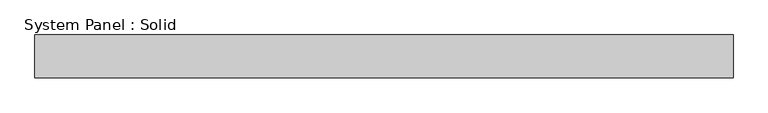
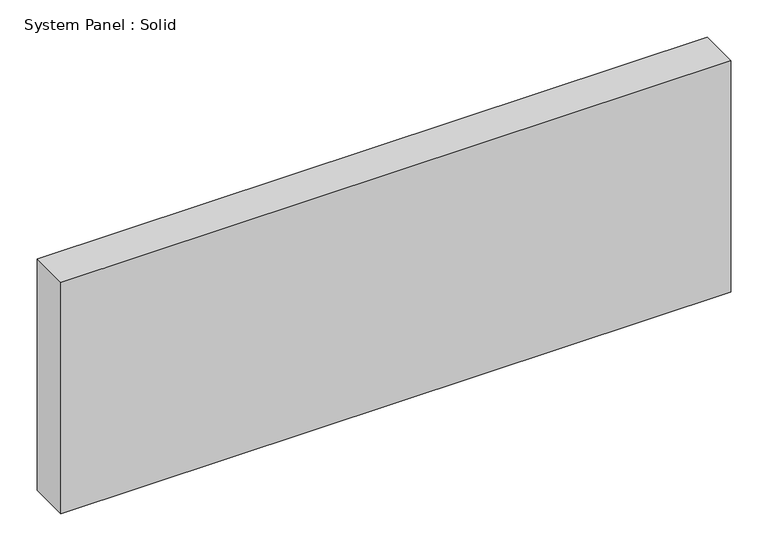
"""IFC4 building model written with IfcOpenShell, lengths in millimetres: plate geometry, System Panel : Solid."""

from ifc_helpers import new_model, si_unit, origin, origin_with_axes, place, context, project, spatial, polyline, outline, extrude, source, transform, mapped, element, save


def system_panel_solid_cdb384bf(model_context):
    return source(origin(), model_context, "Body", "SweptSolid", [
        extrude(outline(polyline([(518.8620624, -19.05), (-518.8620624, -19.05), (-518.8620624, 44.45), (518.8620624, 44.45), (518.8620624, -19.05)])), origin_with_axes(), (0.0, 0.0, 1.0), 379.1388226),
    ])


if __name__ == "__main__":
    model = new_model("IFC4")
    model_context = context("Model", 3, world=origin())
    ifc_project = project(units=[si_unit("LENGTHUNIT", "METRE", prefix="MILLI")], contexts=[model_context])
    site = spatial("IfcSite", under=ifc_project)
    building = spatial("IfcBuilding", under=site)
    placement = place(None, origin())
    system_panel_solid_shape = system_panel_solid_cdb384bf(model_context)
    element("IfcPlate", 1, ObjectType="System Panel : Solid", at=placement, inside=building, context=model_context, shape_type="MappedRepresentation", body=[
        mapped(system_panel_solid_shape, transform((0.0, 0.0, 0.0), x_axis=(1.0, 0.0, 0.0), y_axis=(0.0, 1.0, 0.0), z_axis=(0.0, 0.0, 1.0))),
    ])
    save(model, "model.ifc")
